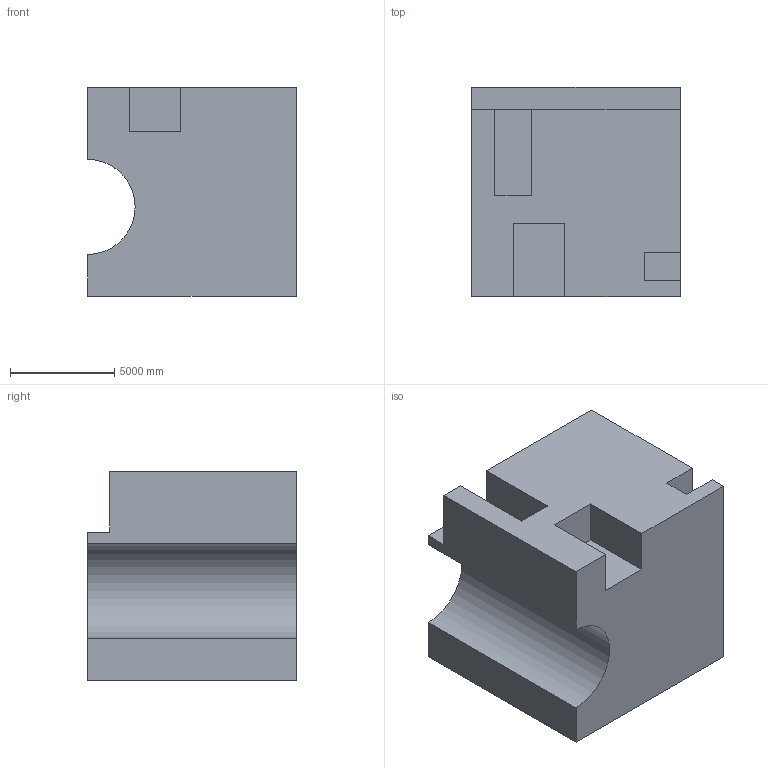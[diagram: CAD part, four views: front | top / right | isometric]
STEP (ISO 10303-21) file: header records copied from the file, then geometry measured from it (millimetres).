
FILE_DESCRIPTION (( 'STEP AP203' ), '1' );
FILE_NAME ('304.STEP', '2022-09-07T12:44:26', ( 'user' ), ( '' ), 'SwSTEP 2.0', 'SolidWorks 2021', '' );
FILE_SCHEMA (( 'CONFIG_CONTROL_DESIGN' ));
Length unit declared in the file: centimetre
Products named in the file (1): 304
Bounding box: 10000 x 10000 x 10000 mm (x, y, z)
Volume: 820905462054 mm3; surface area: 691474289.2 mm2
Topology: 1 solids, 1 shells, 25 faces, 66 edges, 44 vertices
Faces by surface type: plane 22, cylinder 3
Entity records: 843 total; most frequent: CARTESIAN_POINT 136, ORIENTED_EDGE 132, DIRECTION 124, EDGE_CURVE 66, VECTOR 60, LINE 60, VERTEX_POINT 44, AXIS2_PLACEMENT_3D 32
